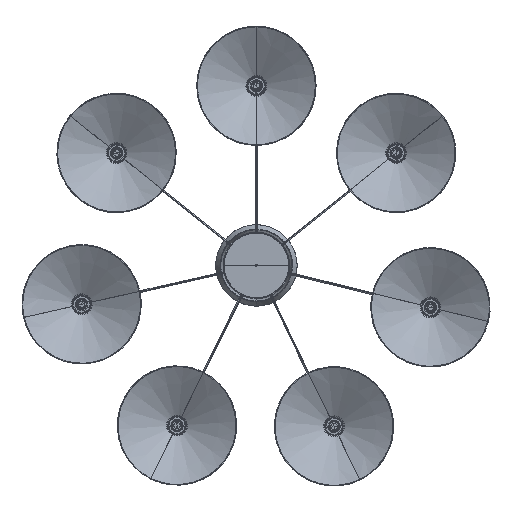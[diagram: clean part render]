
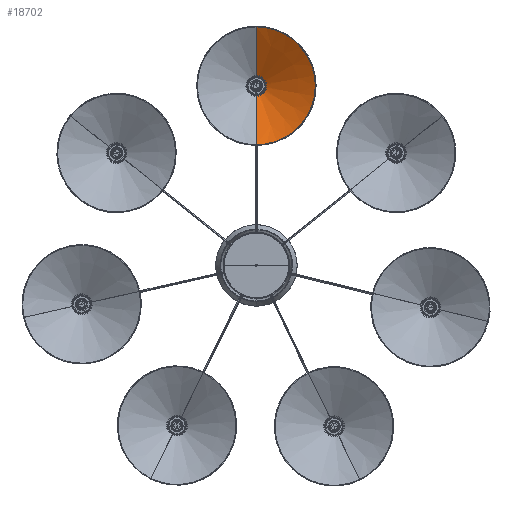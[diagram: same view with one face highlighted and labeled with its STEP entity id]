
A CAD part, top view. The second image highlights one B-rep face of the part: STEP entity #18702.
In plain terms, the highlighted conical face has half-angle 60 degrees and reference radius 180.744 mm.
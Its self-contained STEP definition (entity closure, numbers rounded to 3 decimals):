
#266=CONICAL_SURFACE('',#20836,180.744,1.047);
#1122=B_SPLINE_CURVE_WITH_KNOTS('',3,(#46450,#46451,#46452,#46453),
 .UNSPECIFIED.,.F.,.F.,(4,4),(0.8,1.),.UNSPECIFIED.);
#1123=B_SPLINE_CURVE_WITH_KNOTS('',3,(#46455,#46456,#46457,#46458,#46459,
#46460),.UNSPECIFIED.,.F.,.F.,(4,1,1,4),(0.2,0.4,0.6,0.8),.UNSPECIFIED.);
#1124=B_SPLINE_CURVE_WITH_KNOTS('',3,(#46462,#46463,#46464,#46465),
 .UNSPECIFIED.,.F.,.F.,(4,4),(0.,0.2),.UNSPECIFIED.);
#2932=FACE_OUTER_BOUND('',#4204,.T.);
#4204=EDGE_LOOP('',(#16817,#16818,#16819,#16820,#16821,#16822));
#5299=LINE('',#46537,#6378);
#5300=LINE('',#46540,#6379);
#6378=VECTOR('',#25995,304.8);
#6379=VECTOR('',#25998,304.8);
#7277=CIRCLE('',#20837,197.387);
#8851=VERTEX_POINT('',#46396);
#8852=VERTEX_POINT('',#46449);
#8853=VERTEX_POINT('',#46454);
#8854=VERTEX_POINT('',#46461);
#8857=VERTEX_POINT('',#46536);
#8858=VERTEX_POINT('',#46538);
#11545=EDGE_CURVE('',#8852,#8851,#1122,.T.);
#11546=EDGE_CURVE('',#8853,#8852,#1123,.T.);
#11547=EDGE_CURVE('',#8854,#8853,#1124,.T.);
#11552=EDGE_CURVE('',#8857,#8851,#5299,.T.);
#11553=EDGE_CURVE('',#8858,#8857,#7277,.T.);
#11554=EDGE_CURVE('',#8854,#8858,#5300,.T.);
#16817=ORIENTED_EDGE('',*,*,#11547,.T.);
#16818=ORIENTED_EDGE('',*,*,#11546,.T.);
#16819=ORIENTED_EDGE('',*,*,#11545,.T.);
#16820=ORIENTED_EDGE('',*,*,#11552,.F.);
#16821=ORIENTED_EDGE('',*,*,#11553,.F.);
#16822=ORIENTED_EDGE('',*,*,#11554,.F.);
#18702=ADVANCED_FACE('',(#2932),#266,.F.);
#20836=AXIS2_PLACEMENT_3D('',#46535,#25993,#25994);
#20837=AXIS2_PLACEMENT_3D('',#46539,#25996,#25997);
#25993=DIRECTION('center_axis',(0.,0.,
-1.));
#25994=DIRECTION('ref_axis',(-1.,0.,0.));
#25995=DIRECTION('',(0.,0.866,0.5));
#25996=DIRECTION('center_axis',(0.,0.,
1.));
#25997=DIRECTION('ref_axis',(0.588,0.809,0.));
#25998=DIRECTION('',(0.,0.866,-0.5));
#46396=CARTESIAN_POINT('',(0.,569.04,725.619));
#46449=CARTESIAN_POINT('',(-18.198,574.953,725.619));
#46450=CARTESIAN_POINT('Ctrl Pts',(-18.198,574.953,725.619));
#46451=CARTESIAN_POINT('Ctrl Pts',(-13.004,571.085,725.619));
#46452=CARTESIAN_POINT('Ctrl Pts',(-6.652,568.811,725.619));
#46453=CARTESIAN_POINT('Ctrl Pts',(0.,569.04,
725.619));
#46454=CARTESIAN_POINT('',(-18.198,625.047,725.619));
#46455=CARTESIAN_POINT('Ctrl Pts',(-18.198,625.047,725.619));
#46456=CARTESIAN_POINT('Ctrl Pts',(-23.392,621.179,725.619));
#46457=CARTESIAN_POINT('Ctrl Pts',(-31.462,610.254,725.619));
#46458=CARTESIAN_POINT('Ctrl Pts',(-31.462,589.746,725.619));
#46459=CARTESIAN_POINT('Ctrl Pts',(-23.392,578.821,725.619));
#46460=CARTESIAN_POINT('Ctrl Pts',(-18.198,574.953,725.619));
#46461=CARTESIAN_POINT('',(0.,630.96,725.619));
#46462=CARTESIAN_POINT('Ctrl Pts',(0.,630.96,
725.619));
#46463=CARTESIAN_POINT('Ctrl Pts',(-6.652,631.189,725.619));
#46464=CARTESIAN_POINT('Ctrl Pts',(-13.004,628.915,725.619));
#46465=CARTESIAN_POINT('Ctrl Pts',(-18.198,625.047,725.619));
#46535=CARTESIAN_POINT('Origin',(0.,600.,
639.141));
#46536=CARTESIAN_POINT('',(0.,402.613,629.533));
#46537=CARTESIAN_POINT('',(0.,402.613,629.533));
#46538=CARTESIAN_POINT('',(0.,797.387,629.533));
#46539=CARTESIAN_POINT('Origin',(0.,600.,
629.533));
#46540=CARTESIAN_POINT('',(0.,630.96,725.619));
